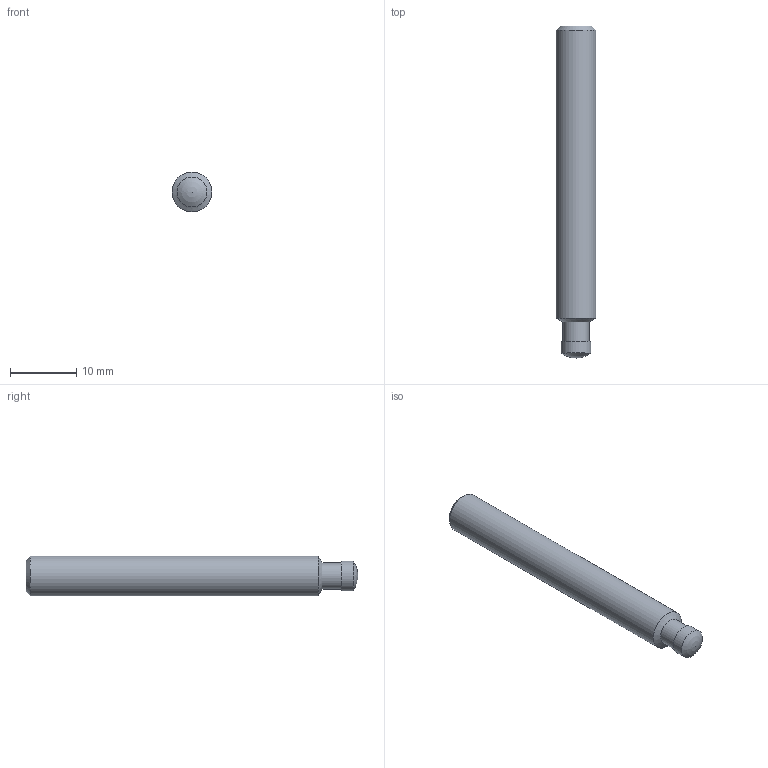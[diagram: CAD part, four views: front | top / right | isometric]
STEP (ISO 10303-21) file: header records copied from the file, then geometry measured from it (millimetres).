
FILE_DESCRIPTION( ( 'STEP AP203' ), '1' );
FILE_NAME( 'C:/Temp/Ganter_Step_05_03_2020/data/3_2/din6332/din6332/Grub screw DIN 6332-M6-50-SK.stp', '2020-03-13T05:16:18', ( 'License CC BY-ND 4.0' ), ( 'CADENAS' ), ' ', 'PARTsolutions', ' ' );
FILE_SCHEMA( ( 'CONFIG_CONTROL_DESIGN' ) );
Length unit declared in the file: millimetre
Products named in the file (1): _Grub screw DIN 6332-M6-50-SK
Bounding box: 6 x 50 x 6 mm (x, y, z)
Volume: 1307.4 mm3; surface area: 971.8 mm2
Topology: 1 solids, 1 shells, 15 faces, 33 edges, 21 vertices
Faces by surface type: plane 9, cylinder 3, cone 2, sphere 1
Full cylindrical faces by diameter (mm): 4 x1, 4.5 x1, 6 x1
Entity records: 410 total; most frequent: DIRECTION 64, CARTESIAN_POINT 61, ORIENTED_EDGE 50, EDGE_CURVE 25, AXIS2_PLACEMENT_3D 23, EDGE_LOOP 22, VERTEX_POINT 20, FACE_OUTER_BOUND 18
